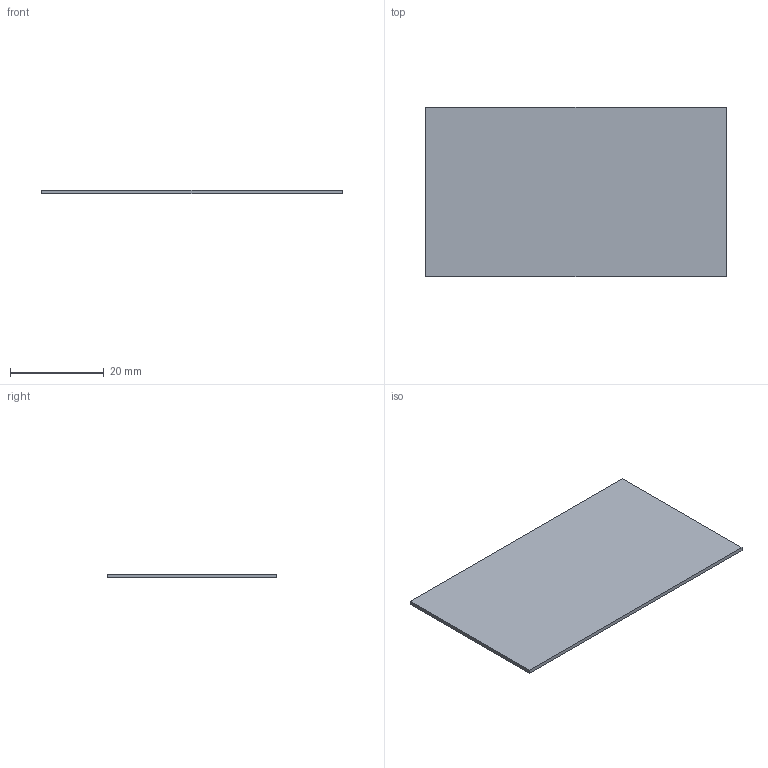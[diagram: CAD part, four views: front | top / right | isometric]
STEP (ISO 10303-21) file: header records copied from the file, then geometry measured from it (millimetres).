
FILE_DESCRIPTION(('Open CASCADE Model'),'2;1');
FILE_NAME('Open CASCADE Shape Model','2026-09-06T11:46:17',('Author'),( 'Open CASCADE'),'Open CASCADE STEP processor 7.7','Open CASCADE 7.7' ,'Unknown');
FILE_SCHEMA(('AUTOMOTIVE_DESIGN { 1 0 10303 214 1 1 1 1 }'));
Products named in the file (1): Open CASCADE STEP translator 7.7 20
Bounding box: 64 x 36 x 0.8 mm (x, y, z)
Volume: 1808.8 mm3; surface area: 4874.9 mm2
Topology: 1 solids, 1 shells, 10089 faces, 30132 edges, 20088 vertices
Faces by surface type: plane 10089
Entity records: 723616 total; most frequent: CARTESIAN_POINT 120590, DIRECTION 110560, LINE 90380, VECTOR 90380, ORIENTED_EDGE 60264, PCURVE 60264, DEFINITIONAL_REPRESENTATION 60264, EDGE_CURVE 30132
